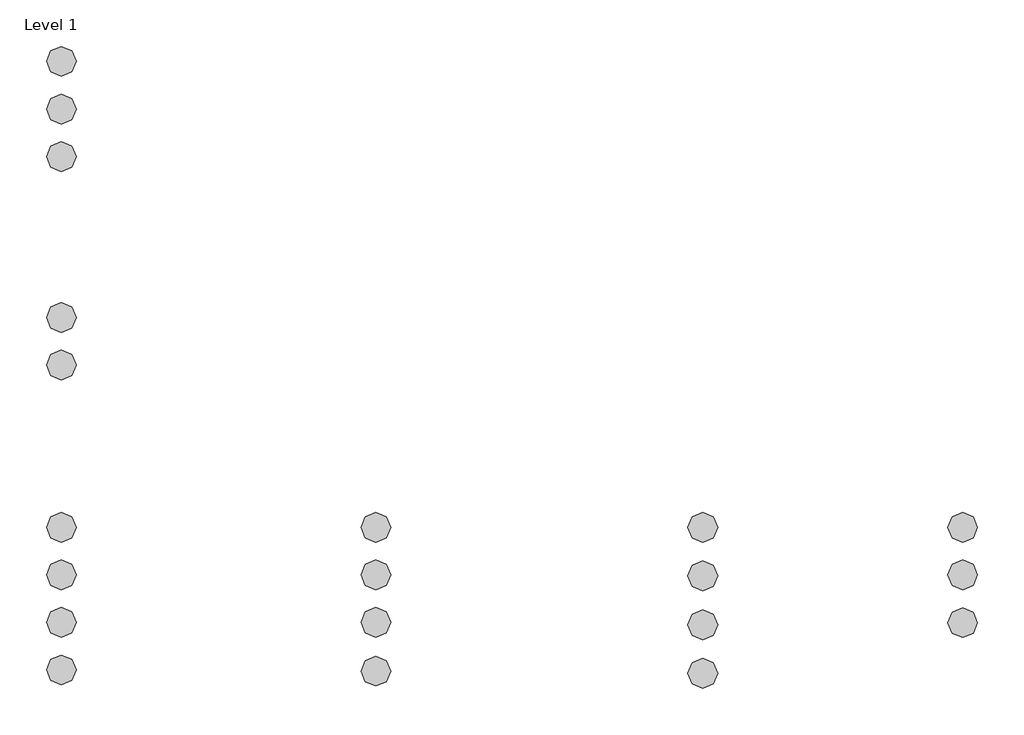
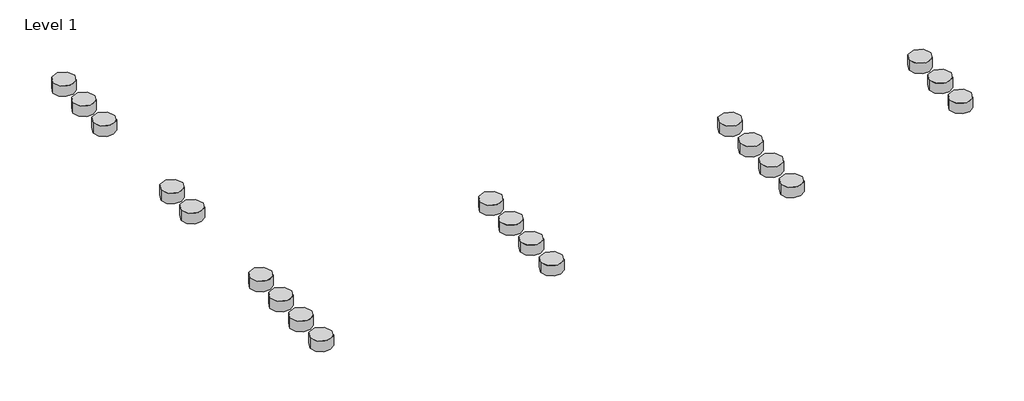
# One storey, incomplete: 20 proxies.
"""IFC4 building model written with IfcOpenShell, lengths in millimetres."""

import ifcopenshell
import ifcopenshell.guid

model = None  # the IFC model being written
_history = None  # IfcOwnerHistory: only IFC2X3 demands one
_inside = {}  # id of a spatial element -> (the spatial element, [elements in it])
_under = {}  # id of a project, library or spatial element -> (it, [spatial elements below it])
_declared = {}  # id of a project -> (the project, [libraries it declares])
_typed = {}  # id of a type object -> (the type object, [elements of that type])
_made_of = {}  # id of a material, layer set ... -> (it, [elements and type objects made of it])


def new_model(schema):
    """Start an empty IFC model of exactly this schema.

    Asked for "IFC4X3", IfcOpenShell would pick the latest addendum, in which some entities
    have other attributes; the version numbers below select the first issue.
    IFC2X3 requires an IfcOwnerHistory on every rooted entity: one is made here for all.
    """
    global model, _history
    if schema == "IFC4X3":
        model = ifcopenshell.file(schema_version=(4, 3, 0, 0))
    else:
        model = ifcopenshell.file(schema=schema)
    _inside.clear()
    _under.clear()
    _declared.clear()
    _typed.clear()
    _made_of.clear()
    _history = None
    if model.schema == "IFC2X3":
        org = make("IfcOrganization", Name="unknown")
        user = make(
            "IfcPersonAndOrganization",
            ThePerson=make("IfcPerson", FamilyName="unknown"),
            TheOrganization=org,
        )
        app = make(
            "IfcApplication",
            ApplicationDeveloper=org,
            Version="unknown",
            ApplicationFullName="unknown",
            ApplicationIdentifier="unknown",
        )
        _history = make(
            "IfcOwnerHistory",
            OwningUser=user,
            OwningApplication=app,
            ChangeAction="ADDED",
            CreationDate=0,
        )
    return model


def make(cls, **values):
    """One entity of the class cls with the attributes given. An attribute that is None is left unset."""
    return model.create_entity(
        cls, **{name: value for name, value in values.items() if value is not None}
    )


def rooted(cls, **values):
    """An entity with a GlobalId (a new one), such as an element, a storey or a relation."""
    return make(cls, GlobalId=ifcopenshell.guid.new(), OwnerHistory=_history, **values)


def si_unit(unit_type, name, prefix=None):
    """IfcSIUnit, for example si_unit("LENGTHUNIT", "METRE", prefix="MILLI")."""
    return make("IfcSIUnit", UnitType=unit_type, Prefix=prefix, Name=name)


def assignment(units):
    """IfcUnitAssignment: the units of a project."""
    return None if units is None else make("IfcUnitAssignment", Units=units)


def point(xyz):
    """IfcCartesianPoint."""
    return None if xyz is None else make("IfcCartesianPoint", Coordinates=xyz)


def direction(xyz):
    """IfcDirection."""
    return None if xyz is None else make("IfcDirection", DirectionRatios=xyz)


def frame(location, z_axis=None, x_axis=None):
    """IfcAxis2Placement3D, a coordinate frame: its origin and axes. An axis left out is left unset."""
    return make(
        "IfcAxis2Placement3D",
        Location=point(location),
        Axis=direction(z_axis),
        RefDirection=direction(x_axis),
    )


def frame_2d(location, x_axis=None):
    """IfcAxis2Placement2D, a coordinate frame in the plane: its origin and x axis."""
    return make(
        "IfcAxis2Placement2D", Location=point(location), RefDirection=direction(x_axis)
    )


def origin():
    """The frame at (0, 0, 0) with its axes left unset."""
    return frame((0.0, 0.0, 0.0))


def origin_with_axes():
    """The frame at (0, 0, 0) with the z axis (0, 0, 1) and the x axis (1, 0, 0) written out."""
    return frame((0.0, 0.0, 0.0), z_axis=(0.0, 0.0, 1.0), x_axis=(1.0, 0.0, 0.0))


def origin_2d():
    """The frame at (0, 0) in the plane with its x axis left unset."""
    return frame_2d((0.0, 0.0))


def place(relative_to, where):
    """IfcLocalPlacement: puts the frame where relative to a parent placement (None: the world)."""
    return make(
        "IfcLocalPlacement", PlacementRelTo=relative_to, RelativePlacement=where
    )


def context(
    kind, dimensions, precision=None, world=None, true_north=None, identifier=None
):
    """IfcGeometricRepresentationContext, for example the 3D "Model" context."""
    return make(
        "IfcGeometricRepresentationContext",
        ContextIdentifier=identifier,
        ContextType=kind,
        CoordinateSpaceDimension=dimensions,
        Precision=precision,
        WorldCoordinateSystem=world,
        TrueNorth=true_north,
    )


def project(units=None, contexts=None):
    """IfcProject with its units and contexts."""
    return rooted(
        "IfcProject",
        Name="project",
        RepresentationContexts=contexts,
        UnitsInContext=assignment(units),
    )


def spatial(cls, under=None, at=None, **own):
    """A site, building, storey or space (cls), placed at a placement, below another one or the project."""
    s = rooted(cls, ObjectPlacement=at, **own)
    if under is not None:
        _under.setdefault(under.id(), (under, []))[1].append(s)
    return s


def circle_curve(where, radius):
    """IfcCircle in the frame where."""
    return make("IfcCircle", Position=where, Radius=radius)


def trimmed(basis, trim1, trim2, sense, master):
    """IfcTrimmedCurve: the piece of a basis curve between two trims."""
    return make(
        "IfcTrimmedCurve",
        BasisCurve=basis,
        Trim1=trim1,
        Trim2=trim2,
        SenseAgreement=sense,
        MasterRepresentation=master,
    )


def segment(curve, same_sense, transition):
    """IfcCompositeCurveSegment."""
    return make(
        "IfcCompositeCurveSegment",
        Transition=transition,
        SameSense=same_sense,
        ParentCurve=curve,
    )


def composite_curve(segments, self_intersect=None):
    """IfcCompositeCurve: segments joined end to end."""
    return make("IfcCompositeCurve", Segments=segments, SelfIntersect=self_intersect)


def outline(outer, holes=None, kind="AREA"):
    """IfcArbitraryClosedProfileDef: a profile drawn as a closed curve; with holes, ...WithVoids."""
    if holes is None:
        return make("IfcArbitraryClosedProfileDef", ProfileType=kind, OuterCurve=outer)
    return make(
        "IfcArbitraryProfileDefWithVoids",
        ProfileType=kind,
        OuterCurve=outer,
        InnerCurves=holes,
    )


def extrude(swept, where, along, depth):
    """IfcExtrudedAreaSolid: the profile swept, set in the frame where, extruded along a direction by depth."""
    return make(
        "IfcExtrudedAreaSolid",
        SweptArea=swept,
        Position=where,
        ExtrudedDirection=direction(along),
        Depth=depth,
    )


def shape(context_of_items, identifier, shape_type, items):
    """IfcShapeRepresentation: the items that make up one representation, for example the "Body"."""
    return make(
        "IfcShapeRepresentation",
        ContextOfItems=context_of_items,
        RepresentationIdentifier=identifier,
        RepresentationType=shape_type,
        Items=items,
    )


def source(mapping_origin, context_of_items, identifier, shape_type, items):
    """IfcRepresentationMap: a shape defined once, which mapped items show again and again."""
    return make(
        "IfcRepresentationMap",
        MappingOrigin=mapping_origin,
        MappedRepresentation=shape(context_of_items, identifier, shape_type, items),
    )


def transform(
    local_origin,
    x_axis=None,
    y_axis=None,
    z_axis=None,
    scale=None,
    scale2=None,
    scale3=None,
    uniform=True,
):
    """IfcCartesianTransformationOperator3D, or its non-uniform kind. x_axis, y_axis, z_axis: its Axis1, 2, 3."""
    if uniform:
        return make(
            "IfcCartesianTransformationOperator3D",
            Axis1=direction(x_axis),
            Axis2=direction(y_axis),
            LocalOrigin=point(local_origin),
            Scale=scale,
            Axis3=direction(z_axis),
        )
    return make(
        "IfcCartesianTransformationOperator3DnonUniform",
        Axis1=direction(x_axis),
        Axis2=direction(y_axis),
        LocalOrigin=point(local_origin),
        Scale=scale,
        Axis3=direction(z_axis),
        Scale2=scale2,
        Scale3=scale3,
    )


def mapped(mapping_source, mapping_target):
    """IfcMappedItem: shows the shape of a source again, moved by a transform."""
    return make(
        "IfcMappedItem", MappingSource=mapping_source, MappingTarget=mapping_target
    )


def made_of(thing, what):
    """Note that an element or type object is made of a material, layer set ...; save() writes the relation."""
    if what is not None:
        _made_of.setdefault(what.id(), (what, []))[1].append(thing)
    return thing


def element(
    cls,
    number,
    at=None,
    inside=None,
    cuts=None,
    type_object=None,
    material=None,
    context=None,
    identifier="Body",
    shape_type=None,
    held_by="IfcProductDefinitionShape",
    body=None,
    shapes=None,
    **own,
):
    """One element of the class cls, such as IfcWall. Its Tag is "e" and its number.

    at: its placement. inside: the storey or other place that contains it. cuts: it is an
    opening in that element (IfcRelVoidsElement). A single representation is given by context,
    identifier, shape_type and body (its items); several are given by shapes. held_by: the class
    of the entity that holds the representations. save() writes the other relations.
    """
    e = rooted(cls, Tag="e%d" % number, ObjectPlacement=at, **own)
    if body is not None:
        shapes = [shape(context, identifier, shape_type, body)]
    if shapes is not None:
        e.Representation = make(held_by, Representations=shapes)
    if inside is not None:
        _inside.setdefault(inside.id(), (inside, []))[1].append(e)
    if cuts is not None:
        rooted(
            "IfcRelVoidsElement", RelatingBuildingElement=cuts, RelatedOpeningElement=e
        )
    if type_object is not None:
        _typed.setdefault(type_object.id(), (type_object, []))[1].append(e)
    return made_of(e, material)


def aggregate(whole, parts):
    """IfcRelAggregates: a whole, such as a stair, and the parts it consists of."""
    return rooted("IfcRelAggregates", RelatingObject=whole, RelatedObjects=parts)


def save(model, path):
    """Write the relations noted so far, then the file.

    IfcRelAggregates (storeys below a building ...), IfcRelContainedInSpatialStructure (elements
    in a storey), IfcRelDefinesByType, IfcRelAssociatesMaterial and IfcRelDeclares: one each for
    every whole, place, type object, material and project.
    """
    for whole, parts in _under.values():
        aggregate(whole, parts)
    for where, things in _inside.values():
        rooted(
            "IfcRelContainedInSpatialStructure",
            RelatedElements=things,
            RelatingStructure=where,
        )
    for kind, things in _typed.values():
        rooted("IfcRelDefinesByType", RelatedObjects=things, RelatingType=kind)
    for what, things in _made_of.values():
        rooted("IfcRelAssociatesMaterial", RelatedObjects=things, RelatingMaterial=what)
    for by, libraries in _declared.values():
        rooted("IfcRelDeclares", RelatingContext=by, RelatedDefinitions=libraries)
    model.write(path)


def materialmodel_materialmodel_02e69005(model_context):
    return source(origin(), model_context, "Body", "SweptSolid", [
        extrude(outline(composite_curve([segment(trimmed(circle_curve(origin_2d(), 50.0), [point((-50.0, 0.0))], [point((50.0, 0.0))], False, "CARTESIAN"), True, "CONTINUOUS"), segment(trimmed(circle_curve(origin_2d(), 50.0), [point((50.0, 0.0))], [point((-50.0, 0.0))], False, "CARTESIAN"), True, "CONTINUOUS")], self_intersect=False)), origin_with_axes(), (0.0, 0.0, 1.0), 50.0),
    ])


model = new_model("IFC4")

# Units and contexts
model_context = context("Model", 3, world=origin())
ifc_project = project(units=[si_unit("LENGTHUNIT", "METRE", prefix="MILLI")], contexts=[model_context])

# Site, building, storey
site = spatial("IfcSite", under=ifc_project)
building = spatial("IfcBuilding", under=site)
storey = spatial("IfcBuildingStorey", under=building, Name="Level 1", Elevation=0.0)

# Proxies
placement = place(None, origin())
materialmodel_materialmodel_shape = materialmodel_materialmodel_02e69005(model_context)
element("IfcBuildingElementProxy", 1, Name="MaterialModel : MaterialModel", ObjectType="MaterialModel : MaterialModel", at=placement, inside=storey, context=model_context, shape_type="MappedRepresentation", body=[
    mapped(materialmodel_materialmodel_shape, transform((-4074.4791773, 4756.9808264, 0.0), x_axis=(1.0, 0.0, 0.0), y_axis=(0.0, 1.0, 0.0), z_axis=(0.0, 0.0, 1.0))),
])
element("IfcBuildingElementProxy", 2, Name="MaterialModel : MaterialModel", ObjectType="MaterialModel : MaterialModel", at=placement, inside=storey, context=model_context, shape_type="MappedRepresentation", body=[
    mapped(materialmodel_materialmodel_shape, transform((-3019.7334881, 4756.9808264, 0.0), x_axis=(1.0, 0.0, 0.0), y_axis=(0.0, 1.0, 0.0), z_axis=(0.0, 0.0, 1.0))),
])
element("IfcBuildingElementProxy", 3, Name="MaterialModel : MaterialModel", ObjectType="MaterialModel : MaterialModel", at=placement, inside=storey, context=model_context, shape_type="MappedRepresentation", body=[
    mapped(materialmodel_materialmodel_shape, transform((-1923.5090358, 4753.1089527, 0.0), x_axis=(1.0, 0.0, 0.0), y_axis=(0.0, 1.0, 0.0), z_axis=(0.0, 0.0, 1.0))),
])
element("IfcBuildingElementProxy", 4, Name="MaterialModel : MaterialModel", ObjectType="MaterialModel : MaterialModel", at=placement, inside=storey, context=model_context, shape_type="MappedRepresentation", body=[
    mapped(materialmodel_materialmodel_shape, transform((-1923.5090358, 4589.6289136, 0.0), x_axis=(1.0, 0.0, 0.0), y_axis=(0.0, 1.0, 0.0), z_axis=(0.0, 0.0, 1.0))),
])
element("IfcBuildingElementProxy", 5, Name="MaterialModel : MaterialModel", ObjectType="MaterialModel : MaterialModel", at=placement, inside=storey, context=model_context, shape_type="MappedRepresentation", body=[
    mapped(materialmodel_materialmodel_shape, transform((-3019.7334881, 4597.3726611, 0.0), x_axis=(1.0, 0.0, 0.0), y_axis=(0.0, 1.0, 0.0), z_axis=(0.0, 0.0, 1.0))),
])
element("IfcBuildingElementProxy", 6, Name="MaterialModel : MaterialModel", ObjectType="MaterialModel : MaterialModel", at=placement, inside=storey, context=model_context, shape_type="MappedRepresentation", body=[
    mapped(materialmodel_materialmodel_shape, transform((-4074.4791773, 5620.968931, 0.0), x_axis=(1.0, 0.0, 0.0), y_axis=(0.0, 1.0, 0.0), z_axis=(0.0, 0.0, 1.0))),
])
element("IfcBuildingElementProxy", 7, Name="MaterialModel : MaterialModel", ObjectType="MaterialModel : MaterialModel", at=placement, inside=storey, context=model_context, shape_type="MappedRepresentation", body=[
    mapped(materialmodel_materialmodel_shape, transform((-4074.4791773, 5460.968931, 0.0), x_axis=(1.0, 0.0, 0.0), y_axis=(0.0, 1.0, 0.0), z_axis=(0.0, 0.0, 1.0))),
])
element("IfcBuildingElementProxy", 8, Name="MaterialModel : MaterialModel", ObjectType="MaterialModel : MaterialModel", at=placement, inside=storey, context=model_context, shape_type="MappedRepresentation", body=[
    mapped(materialmodel_materialmodel_shape, transform((-4074.4791773, 6480.0792645, 0.0), x_axis=(1.0, 0.0, 0.0), y_axis=(0.0, 1.0, 0.0), z_axis=(0.0, 0.0, 1.0))),
])
element("IfcBuildingElementProxy", 9, Name="MaterialModel : MaterialModel", ObjectType="MaterialModel : MaterialModel", at=placement, inside=storey, context=model_context, shape_type="MappedRepresentation", body=[
    mapped(materialmodel_materialmodel_shape, transform((-4074.4791773, 6320.0792645, 0.0), x_axis=(1.0, 0.0, 0.0), y_axis=(0.0, 1.0, 0.0), z_axis=(0.0, 0.0, 1.0))),
])
element("IfcBuildingElementProxy", 10, Name="MaterialModel : MaterialModel", ObjectType="MaterialModel : MaterialModel", at=placement, inside=storey, context=model_context, shape_type="MappedRepresentation", body=[
    mapped(materialmodel_materialmodel_shape, transform((-4074.4791773, 6160.0792645, 0.0), x_axis=(1.0, 0.0, 0.0), y_axis=(0.0, 1.0, 0.0), z_axis=(0.0, 0.0, 1.0))),
])
element("IfcBuildingElementProxy", 11, Name="MaterialModel : MaterialModel", ObjectType="MaterialModel : MaterialModel", at=placement, inside=storey, context=model_context, shape_type="MappedRepresentation", body=[
    mapped(materialmodel_materialmodel_shape, transform((-4074.4791773, 4916.5889917, 0.0), x_axis=(1.0, 0.0, 0.0), y_axis=(0.0, 1.0, 0.0), z_axis=(0.0, 0.0, 1.0))),
])
element("IfcBuildingElementProxy", 12, Name="MaterialModel : MaterialModel", ObjectType="MaterialModel : MaterialModel", at=placement, inside=storey, context=model_context, shape_type="MappedRepresentation", body=[
    mapped(materialmodel_materialmodel_shape, transform((-3019.7334881, 4916.5889917, 0.0), x_axis=(1.0, 0.0, 0.0), y_axis=(0.0, 1.0, 0.0), z_axis=(0.0, 0.0, 1.0))),
])
element("IfcBuildingElementProxy", 13, Name="MaterialModel : MaterialModel", ObjectType="MaterialModel : MaterialModel", at=placement, inside=storey, context=model_context, shape_type="MappedRepresentation", body=[
    mapped(materialmodel_materialmodel_shape, transform((-4074.4791773, 4597.3726611, 0.0), x_axis=(1.0, 0.0, 0.0), y_axis=(0.0, 1.0, 0.0), z_axis=(0.0, 0.0, 1.0))),
])
element("IfcBuildingElementProxy", 14, Name="MaterialModel : MaterialModel", ObjectType="MaterialModel : MaterialModel", at=placement, inside=storey, context=model_context, shape_type="MappedRepresentation", body=[
    mapped(materialmodel_materialmodel_shape, transform((-4074.4791773, 4437.7644959, 0.0), x_axis=(1.0, 0.0, 0.0), y_axis=(0.0, 1.0, 0.0), z_axis=(0.0, 0.0, 1.0))),
])
element("IfcBuildingElementProxy", 15, Name="MaterialModel : MaterialModel", ObjectType="MaterialModel : MaterialModel", at=placement, inside=storey, context=model_context, shape_type="MappedRepresentation", body=[
    mapped(materialmodel_materialmodel_shape, transform((-3019.7334881, 4433.8926221, 0.0), x_axis=(1.0, 0.0, 0.0), y_axis=(0.0, 1.0, 0.0), z_axis=(0.0, 0.0, 1.0))),
])
element("IfcBuildingElementProxy", 16, Name="MaterialModel : MaterialModel", ObjectType="MaterialModel : MaterialModel", at=placement, inside=storey, context=model_context, shape_type="MappedRepresentation", body=[
    mapped(materialmodel_materialmodel_shape, transform((-1923.5090358, 4916.5889917, 0.0), x_axis=(1.0, 0.0, 0.0), y_axis=(0.0, 1.0, 0.0), z_axis=(0.0, 0.0, 1.0))),
])
element("IfcBuildingElementProxy", 17, Name="MaterialModel : MaterialModel", ObjectType="MaterialModel : MaterialModel", at=placement, inside=storey, context=model_context, shape_type="MappedRepresentation", body=[
    mapped(materialmodel_materialmodel_shape, transform((-1923.5090358, 4427.0163052, 0.0), x_axis=(1.0, 0.0, 0.0), y_axis=(0.0, 1.0, 0.0), z_axis=(0.0, 0.0, 1.0))),
])
element("IfcBuildingElementProxy", 18, Name="MaterialModel : MaterialModel", ObjectType="MaterialModel : MaterialModel", at=placement, inside=storey, context=model_context, shape_type="MappedRepresentation", body=[
    mapped(materialmodel_materialmodel_shape, transform((-1052.4550115, 4916.5889917, 0.0), x_axis=(1.0, 0.0, 0.0), y_axis=(0.0, 1.0, 0.0), z_axis=(0.0, 0.0, 1.0))),
])
element("IfcBuildingElementProxy", 19, Name="MaterialModel : MaterialModel", ObjectType="MaterialModel : MaterialModel", at=placement, inside=storey, context=model_context, shape_type="MappedRepresentation", body=[
    mapped(materialmodel_materialmodel_shape, transform((-1052.4550115, 4756.5889917, 0.0), x_axis=(1.0, 0.0, 0.0), y_axis=(0.0, 1.0, 0.0), z_axis=(0.0, 0.0, 1.0))),
])
element("IfcBuildingElementProxy", 20, Name="MaterialModel : MaterialModel", ObjectType="MaterialModel : MaterialModel", at=placement, inside=storey, context=model_context, shape_type="MappedRepresentation", body=[
    mapped(materialmodel_materialmodel_shape, transform((-1052.4550115, 4596.5889917, 0.0), x_axis=(1.0, 0.0, 0.0), y_axis=(0.0, 1.0, 0.0), z_axis=(0.0, 0.0, 1.0))),
])

save(model, "model.ifc")
